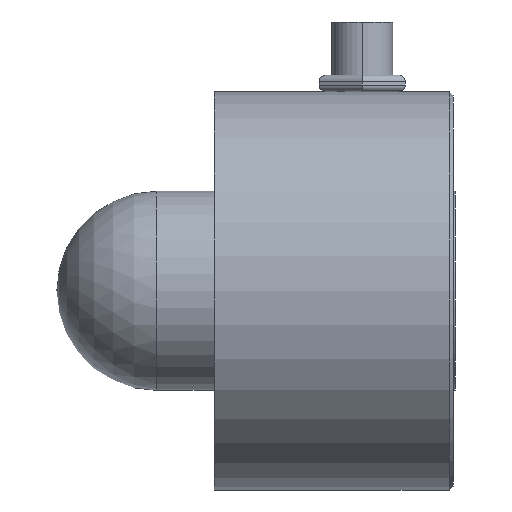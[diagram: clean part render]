
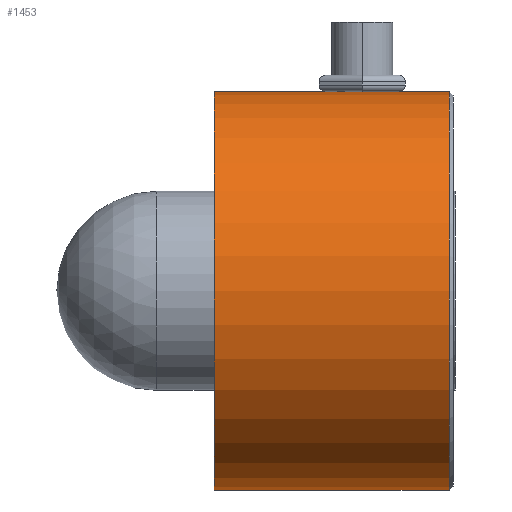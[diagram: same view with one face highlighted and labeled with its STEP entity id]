
A CAD part, left-side view. The second image highlights one B-rep face of the part: STEP entity #1453.
In plain terms, the highlighted cylindrical face has radius 38.1 mm (diameter 76.2 mm), a partial arc.
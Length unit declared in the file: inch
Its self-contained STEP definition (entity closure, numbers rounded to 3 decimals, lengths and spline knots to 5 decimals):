
#242 = AXIS2_PLACEMENT_3D ( 'NONE', #747, #772, #748 ) ;
#252 = AXIS2_PLACEMENT_3D ( 'NONE', #654, #681, #668 ) ;
#311 = AXIS2_PLACEMENT_3D ( 'NONE', #891, #892, #905 ) ;
#343 = CARTESIAN_POINT ( 'NONE',  ( 0., 1.799, -1.5 ) ) ;
#376 = CARTESIAN_POINT ( 'NONE',  ( 0., 1.799, 1.5 ) ) ;
#654 = CARTESIAN_POINT ( 'NONE',  ( 0., 0.335, 0. ) ) ;
#668 = DIRECTION ( 'NONE',  ( 0., 0., -1. ) ) ;
#681 = DIRECTION ( 'NONE',  ( 0., -1., 0. ) ) ;
#747 = CARTESIAN_POINT ( 'NONE',  ( 0., 1.799, 0. ) ) ;
#748 = DIRECTION ( 'NONE',  ( 0., 0., 1. ) ) ;
#761 = CARTESIAN_POINT ( 'NONE',  ( 0., 0.335, 1.5 ) ) ;
#772 = DIRECTION ( 'NONE',  ( 0., 1., 0. ) ) ;
#773 = DIRECTION ( 'NONE',  ( 0., -1., 0. ) ) ;
#886 = CARTESIAN_POINT ( 'NONE',  ( 0., 0.335, -1.5 ) ) ;
#891 = CARTESIAN_POINT ( 'NONE',  ( 0., 0.03, 0. ) ) ;
#892 = DIRECTION ( 'NONE',  ( 0., 1., 0. ) ) ;
#905 = DIRECTION ( 'NONE',  ( 0., 0., 1. ) ) ;
#913 = DIRECTION ( 'NONE',  ( 0., -1., 0. ) ) ;
#915 = LINE ( 'NONE', #886, #921 ) ;
#921 = VECTOR ( 'NONE', #913, 39.37008 ) ;
#934 = VERTEX_POINT ( 'NONE', #2474 ) ;
#960 = VERTEX_POINT ( 'NONE', #2456 ) ;
#989 = VERTEX_POINT ( 'NONE', #376 ) ;
#1004 = VERTEX_POINT ( 'NONE', #343 ) ;
#1453 = ADVANCED_FACE ( 'NONE', ( #1951 ), #1977, .T. ) ;
#1472 = CIRCLE ( 'NONE', #311, 1.5 ) ;
#1936 = LINE ( 'NONE', #761, #1947 ) ;
#1947 = VECTOR ( 'NONE', #773, 39.37008 ) ;
#1951 = FACE_OUTER_BOUND ( 'NONE', #2302, .T. ) ;
#1977 = CYLINDRICAL_SURFACE ( 'NONE', #252, 1.5 ) ;
#2005 = CIRCLE ( 'NONE', #242, 1.5 ) ;
#2023 = EDGE_CURVE ( 'NONE', #989, #960, #1936, .T. ) ;
#2093 = ORIENTED_EDGE ( 'NONE', *, *, #2548, .T. ) ;
#2117 = ORIENTED_EDGE ( 'NONE', *, *, #2502, .F. ) ;
#2152 = ORIENTED_EDGE ( 'NONE', *, *, #2023, .F. ) ;
#2153 = ORIENTED_EDGE ( 'NONE', *, *, #2543, .T. ) ;
#2302 = EDGE_LOOP ( 'NONE', ( #2152, #2117, #2093, #2153 ) ) ;
#2456 = CARTESIAN_POINT ( 'NONE',  ( 0., 0.03, 1.5 ) ) ;
#2474 = CARTESIAN_POINT ( 'NONE',  ( 0., 0.03, -1.5 ) ) ;
#2502 = EDGE_CURVE ( 'NONE', #1004, #989, #2005, .T. ) ;
#2543 = EDGE_CURVE ( 'NONE', #934, #960, #1472, .T. ) ;
#2548 = EDGE_CURVE ( 'NONE', #1004, #934, #915, .T. ) ;
